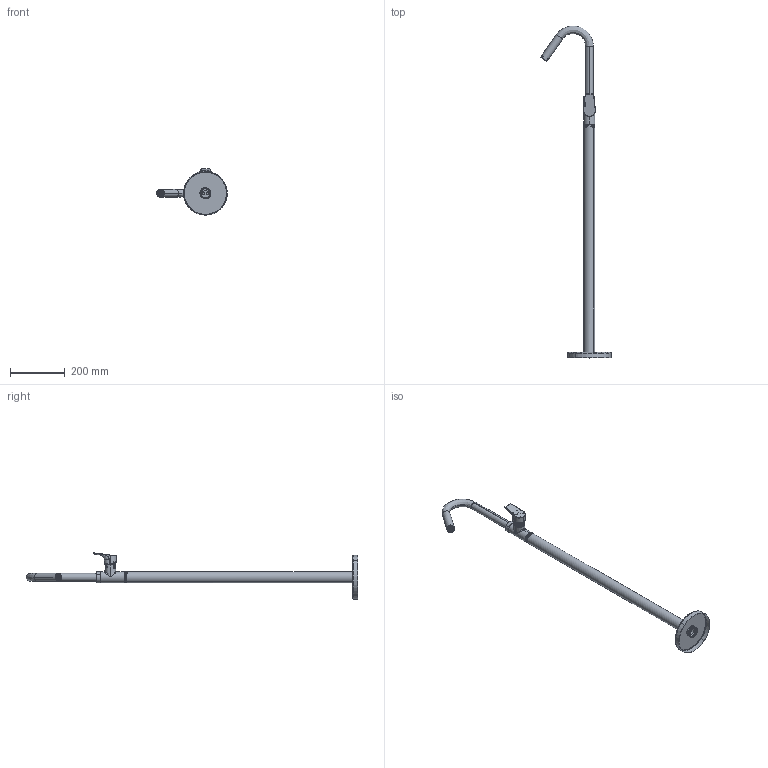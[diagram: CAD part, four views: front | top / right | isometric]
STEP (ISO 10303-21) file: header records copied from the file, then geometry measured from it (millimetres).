
FILE_DESCRIPTION (( 'STEP AP203' ), '1' );
FILE_NAME ('21AP07867.STEP', '2023-11-15T08:00:19', ( '' ), ( '' ), 'SwSTEP 2.0', 'SolidWorks 2021', '' );
FILE_SCHEMA (( 'CONFIG_CONTROL_DESIGN' ));
Length unit declared in the file: millimetre
Products named in the file (1): 21AP07867
Bounding box: 257.97 x 1211.6 x 169.01 mm (x, y, z)
Volume: 394475.5 mm3; surface area: 397606.8 mm2
Topology: 9 solids, 9 shells, 1675 faces, 4255 edges, 2822 vertices
Faces by surface type: plane 1245, cylinder 341, bspline 56, cone 21, torus 8, sphere 4
Entity records: 64688 total; most frequent: CARTESIAN_POINT 24961, ORIENTED_EDGE 8510, DIRECTION 7544, EDGE_CURVE 4255, LINE 3290, VECTOR 3290, VERTEX_POINT 2822, AXIS2_PLACEMENT_3D 2127
